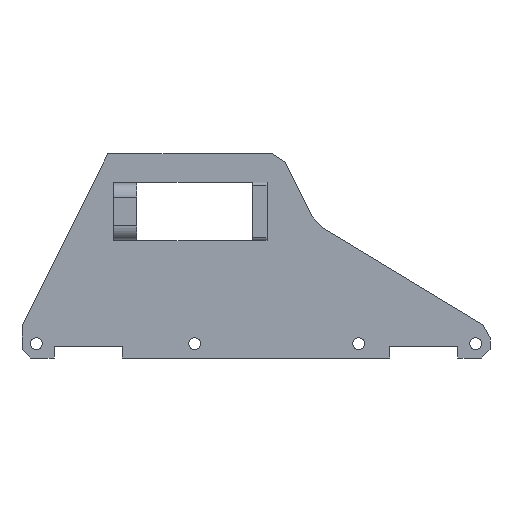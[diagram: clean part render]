
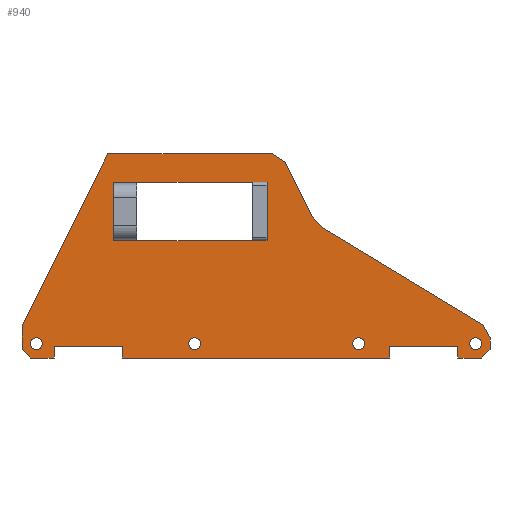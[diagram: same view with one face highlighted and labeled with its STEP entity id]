
A CAD part, front view. The second image highlights one B-rep face of the part: STEP entity #940.
In plain terms, the highlighted planar face has unit normal (0, -1, 0).
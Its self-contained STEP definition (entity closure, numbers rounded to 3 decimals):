
#21=FACE_BOUND('',#138,.T.);
#22=FACE_BOUND('',#139,.T.);
#23=FACE_BOUND('',#140,.T.);
#24=FACE_BOUND('',#141,.T.);
#25=FACE_BOUND('',#142,.T.);
#43=PLANE('',#1017);
#82=FACE_OUTER_BOUND('',#137,.T.);
#137=EDGE_LOOP('',(#727,#728,#729,#730,#731,#732,#733,#734,#735,#736,#737,
#738,#739,#740,#741,#742,#743,#744,#745,#746));
#138=EDGE_LOOP('',(#747,#748,#749,#750,#751,#752,#753,#754,#755,#756,#757));
#139=EDGE_LOOP('',(#758));
#140=EDGE_LOOP('',(#759));
#141=EDGE_LOOP('',(#760));
#142=EDGE_LOOP('',(#761));
#187=LINE('',#1357,#287);
#194=LINE('',#1377,#294);
#196=LINE('',#1382,#296);
#198=LINE('',#1386,#298);
#207=LINE('',#1418,#307);
#211=LINE('',#1430,#311);
#215=LINE('',#1438,#315);
#217=LINE('',#1441,#317);
#218=LINE('',#1443,#318);
#219=LINE('',#1447,#319);
#220=LINE('',#1449,#320);
#221=LINE('',#1451,#321);
#222=LINE('',#1453,#322);
#223=LINE('',#1455,#323);
#224=LINE('',#1457,#324);
#225=LINE('',#1459,#325);
#226=LINE('',#1461,#326);
#227=LINE('',#1463,#327);
#228=LINE('',#1465,#328);
#229=LINE('',#1467,#329);
#230=LINE('',#1469,#330);
#231=LINE('',#1471,#331);
#232=LINE('',#1473,#332);
#233=LINE('',#1475,#333);
#234=LINE('',#1477,#334);
#235=LINE('',#1479,#335);
#236=LINE('',#1481,#336);
#237=LINE('',#1483,#337);
#238=LINE('',#1484,#338);
#239=LINE('',#1485,#339);
#240=LINE('',#1486,#340);
#287=VECTOR('',#1087,10.);
#294=VECTOR('',#1104,10.);
#296=VECTOR('',#1110,10.);
#298=VECTOR('',#1116,10.);
#307=VECTOR('',#1147,10.);
#311=VECTOR('',#1159,10.);
#315=VECTOR('',#1163,10.);
#317=VECTOR('',#1167,10.);
#318=VECTOR('',#1170,10.);
#319=VECTOR('',#1173,10.);
#320=VECTOR('',#1174,10.);
#321=VECTOR('',#1175,10.);
#322=VECTOR('',#1176,10.);
#323=VECTOR('',#1177,10.);
#324=VECTOR('',#1178,10.);
#325=VECTOR('',#1179,10.);
#326=VECTOR('',#1180,10.);
#327=VECTOR('',#1181,10.);
#328=VECTOR('',#1182,10.);
#329=VECTOR('',#1183,10.);
#330=VECTOR('',#1184,10.);
#331=VECTOR('',#1185,10.);
#332=VECTOR('',#1186,10.);
#333=VECTOR('',#1187,10.);
#334=VECTOR('',#1188,10.);
#335=VECTOR('',#1189,10.);
#336=VECTOR('',#1190,10.);
#337=VECTOR('',#1191,10.);
#338=VECTOR('',#1192,10.);
#339=VECTOR('',#1193,10.);
#340=VECTOR('',#1194,10.);
#395=CIRCLE('',#1018,2.);
#396=CIRCLE('',#1019,2.);
#397=CIRCLE('',#1020,2.);
#398=CIRCLE('',#1021,2.);
#421=VERTEX_POINT('',#1354);
#422=VERTEX_POINT('',#1356);
#426=VERTEX_POINT('',#1368);
#429=VERTEX_POINT('',#1374);
#430=VERTEX_POINT('',#1376);
#442=VERTEX_POINT('',#1415);
#443=VERTEX_POINT('',#1417);
#446=VERTEX_POINT('',#1427);
#447=VERTEX_POINT('',#1429);
#450=VERTEX_POINT('',#1435);
#451=VERTEX_POINT('',#1437);
#452=VERTEX_POINT('',#1445);
#453=VERTEX_POINT('',#1446);
#454=VERTEX_POINT('',#1448);
#455=VERTEX_POINT('',#1450);
#456=VERTEX_POINT('',#1452);
#457=VERTEX_POINT('',#1454);
#458=VERTEX_POINT('',#1456);
#459=VERTEX_POINT('',#1458);
#460=VERTEX_POINT('',#1460);
#461=VERTEX_POINT('',#1462);
#462=VERTEX_POINT('',#1464);
#463=VERTEX_POINT('',#1466);
#464=VERTEX_POINT('',#1468);
#465=VERTEX_POINT('',#1470);
#466=VERTEX_POINT('',#1472);
#467=VERTEX_POINT('',#1474);
#468=VERTEX_POINT('',#1476);
#469=VERTEX_POINT('',#1478);
#470=VERTEX_POINT('',#1480);
#471=VERTEX_POINT('',#1482);
#472=VERTEX_POINT('',#1487);
#473=VERTEX_POINT('',#1489);
#474=VERTEX_POINT('',#1491);
#475=VERTEX_POINT('',#1493);
#512=EDGE_CURVE('',#422,#421,#187,.T.);
#522=EDGE_CURVE('',#430,#429,#194,.T.);
#525=EDGE_CURVE('',#426,#422,#196,.T.);
#527=EDGE_CURVE('',#421,#430,#198,.T.);
#542=EDGE_CURVE('',#443,#442,#207,.T.);
#548=EDGE_CURVE('',#447,#446,#211,.T.);
#552=EDGE_CURVE('',#451,#450,#215,.T.);
#554=EDGE_CURVE('',#446,#443,#217,.T.);
#555=EDGE_CURVE('',#442,#451,#218,.T.);
#556=EDGE_CURVE('',#452,#453,#219,.T.);
#557=EDGE_CURVE('',#453,#454,#220,.T.);
#558=EDGE_CURVE('',#454,#455,#221,.T.);
#559=EDGE_CURVE('',#455,#456,#222,.T.);
#560=EDGE_CURVE('',#456,#457,#223,.T.);
#561=EDGE_CURVE('',#457,#458,#224,.T.);
#562=EDGE_CURVE('',#458,#459,#225,.T.);
#563=EDGE_CURVE('',#459,#460,#226,.T.);
#564=EDGE_CURVE('',#461,#460,#227,.T.);
#565=EDGE_CURVE('',#461,#462,#228,.T.);
#566=EDGE_CURVE('',#462,#463,#229,.T.);
#567=EDGE_CURVE('',#464,#463,#230,.T.);
#568=EDGE_CURVE('',#465,#464,#231,.T.);
#569=EDGE_CURVE('',#466,#465,#232,.T.);
#570=EDGE_CURVE('',#467,#466,#233,.T.);
#571=EDGE_CURVE('',#468,#467,#234,.T.);
#572=EDGE_CURVE('',#469,#468,#235,.T.);
#573=EDGE_CURVE('',#470,#469,#236,.T.);
#574=EDGE_CURVE('',#471,#470,#237,.T.);
#575=EDGE_CURVE('',#471,#452,#238,.T.);
#576=EDGE_CURVE('',#429,#447,#239,.T.);
#577=EDGE_CURVE('',#450,#426,#240,.T.);
#578=EDGE_CURVE('',#472,#472,#395,.T.);
#579=EDGE_CURVE('',#473,#473,#396,.T.);
#580=EDGE_CURVE('',#474,#474,#397,.T.);
#581=EDGE_CURVE('',#475,#475,#398,.T.);
#727=ORIENTED_EDGE('',*,*,#556,.T.);
#728=ORIENTED_EDGE('',*,*,#557,.T.);
#729=ORIENTED_EDGE('',*,*,#558,.T.);
#730=ORIENTED_EDGE('',*,*,#559,.T.);
#731=ORIENTED_EDGE('',*,*,#560,.T.);
#732=ORIENTED_EDGE('',*,*,#561,.T.);
#733=ORIENTED_EDGE('',*,*,#562,.T.);
#734=ORIENTED_EDGE('',*,*,#563,.T.);
#735=ORIENTED_EDGE('',*,*,#564,.F.);
#736=ORIENTED_EDGE('',*,*,#565,.T.);
#737=ORIENTED_EDGE('',*,*,#566,.T.);
#738=ORIENTED_EDGE('',*,*,#567,.F.);
#739=ORIENTED_EDGE('',*,*,#568,.F.);
#740=ORIENTED_EDGE('',*,*,#569,.F.);
#741=ORIENTED_EDGE('',*,*,#570,.F.);
#742=ORIENTED_EDGE('',*,*,#571,.F.);
#743=ORIENTED_EDGE('',*,*,#572,.F.);
#744=ORIENTED_EDGE('',*,*,#573,.F.);
#745=ORIENTED_EDGE('',*,*,#574,.F.);
#746=ORIENTED_EDGE('',*,*,#575,.T.);
#747=ORIENTED_EDGE('',*,*,#527,.T.);
#748=ORIENTED_EDGE('',*,*,#522,.T.);
#749=ORIENTED_EDGE('',*,*,#576,.T.);
#750=ORIENTED_EDGE('',*,*,#548,.T.);
#751=ORIENTED_EDGE('',*,*,#554,.T.);
#752=ORIENTED_EDGE('',*,*,#542,.T.);
#753=ORIENTED_EDGE('',*,*,#555,.T.);
#754=ORIENTED_EDGE('',*,*,#552,.T.);
#755=ORIENTED_EDGE('',*,*,#577,.T.);
#756=ORIENTED_EDGE('',*,*,#525,.T.);
#757=ORIENTED_EDGE('',*,*,#512,.T.);
#758=ORIENTED_EDGE('',*,*,#578,.T.);
#759=ORIENTED_EDGE('',*,*,#579,.T.);
#760=ORIENTED_EDGE('',*,*,#580,.T.);
#761=ORIENTED_EDGE('',*,*,#581,.T.);
#940=ADVANCED_FACE('',(#82,#21,#22,#23,#24,#25),#43,.F.);
#1017=AXIS2_PLACEMENT_3D('',#1444,#1171,#1172);
#1018=AXIS2_PLACEMENT_3D('',#1488,#1195,#1196);
#1019=AXIS2_PLACEMENT_3D('',#1490,#1197,#1198);
#1020=AXIS2_PLACEMENT_3D('',#1492,#1199,#1200);
#1021=AXIS2_PLACEMENT_3D('',#1494,#1201,#1202);
#1087=DIRECTION('',(0.,0.,-1.));
#1104=DIRECTION('',(0.,0.,-1.));
#1110=DIRECTION('',(1.,0.,0.));
#1116=DIRECTION('',(-1.,0.,0.));
#1147=DIRECTION('',(0.,0.,1.));
#1159=DIRECTION('',(0.,0.,1.));
#1163=DIRECTION('',(0.,0.,1.));
#1167=DIRECTION('',(-1.,0.,0.));
#1170=DIRECTION('',(1.,0.,0.));
#1171=DIRECTION('center_axis',(0.,1.,0.));
#1172=DIRECTION('ref_axis',(1.,0.,0.));
#1173=DIRECTION('',(0.,0.,1.));
#1174=DIRECTION('',(1.,0.,0.));
#1175=DIRECTION('',(0.,0.,-1.));
#1176=DIRECTION('',(1.,0.,0.));
#1177=DIRECTION('',(0.,0.,1.));
#1178=DIRECTION('',(1.,0.,0.));
#1179=DIRECTION('',(0.,0.,-1.));
#1180=DIRECTION('',(1.,0.,0.));
#1181=DIRECTION('',(-0.707,0.,-0.707));
#1182=DIRECTION('',(0.,0.,1.));
#1183=DIRECTION('',(-0.486,0.,0.874));
#1184=DIRECTION('',(0.856,0.,-0.518));
#1185=DIRECTION('',(0.674,0.,-0.738));
#1186=DIRECTION('',(0.447,0.,-0.894));
#1187=DIRECTION('',(0.851,0.,-0.525));
#1188=DIRECTION('',(1.,0.,0.));
#1189=DIRECTION('',(0.447,0.,0.894));
#1190=DIRECTION('',(0.,0.,1.));
#1191=DIRECTION('',(-0.707,0.,0.707));
#1192=DIRECTION('',(1.,0.,0.));
#1193=DIRECTION('',(-1.,0.,0.));
#1194=DIRECTION('',(1.,0.,0.));
#1195=DIRECTION('center_axis',(0.,1.,0.));
#1196=DIRECTION('ref_axis',(1.,0.,0.));
#1197=DIRECTION('center_axis',(0.,1.,0.));
#1198=DIRECTION('ref_axis',(1.,0.,0.));
#1199=DIRECTION('center_axis',(0.,1.,0.));
#1200=DIRECTION('ref_axis',(1.,0.,0.));
#1201=DIRECTION('center_axis',(0.,1.,0.));
#1202=DIRECTION('ref_axis',(1.,0.,0.));
#1354=CARTESIAN_POINT('',(85.15,0.,40.916));
#1356=CARTESIAN_POINT('',(85.15,0.,61.066));
#1357=CARTESIAN_POINT('',(85.15,0.,38.187));
#1368=CARTESIAN_POINT('',(80.15,0.,61.066));
#1374=CARTESIAN_POINT('',(80.15,0.,40.766));
#1376=CARTESIAN_POINT('',(80.15,0.,40.916));
#1377=CARTESIAN_POINT('',(80.15,0.,48.262));
#1382=CARTESIAN_POINT('',(83.236,0.,61.066));
#1386=CARTESIAN_POINT('',(80.736,0.,40.916));
#1415=CARTESIAN_POINT('',(31.85,0.,60.916));
#1417=CARTESIAN_POINT('',(31.85,0.,40.916));
#1418=CARTESIAN_POINT('',(31.85,0.,48.187));
#1427=CARTESIAN_POINT('',(39.85,0.,40.916));
#1429=CARTESIAN_POINT('',(39.85,0.,40.766));
#1430=CARTESIAN_POINT('',(39.85,0.,38.112));
#1435=CARTESIAN_POINT('',(39.85,0.,61.066));
#1437=CARTESIAN_POINT('',(39.85,0.,60.916));
#1438=CARTESIAN_POINT('',(39.85,0.,38.112));
#1441=CARTESIAN_POINT('',(56.586,0.,40.916));
#1443=CARTESIAN_POINT('',(60.586,0.,60.916));
#1444=CARTESIAN_POINT('Origin',(81.323,0.,35.458));
#1445=CARTESIAN_POINT('',(11.157,0.,0.));
#1446=CARTESIAN_POINT('',(11.157,0.,4.));
#1447=CARTESIAN_POINT('',(11.157,0.,0.));
#1448=CARTESIAN_POINT('',(34.843,0.,4.));
#1449=CARTESIAN_POINT('',(52.161,0.,4.));
#1450=CARTESIAN_POINT('',(34.843,0.,0.));
#1451=CARTESIAN_POINT('',(34.843,0.,0.));
#1452=CARTESIAN_POINT('',(127.803,0.,0.));
#1453=CARTESIAN_POINT('',(2.645,0.,0.));
#1454=CARTESIAN_POINT('',(127.803,0.,4.));
#1455=CARTESIAN_POINT('',(127.803,0.,0.));
#1456=CARTESIAN_POINT('',(151.488,0.,4.));
#1457=CARTESIAN_POINT('',(110.484,0.,4.));
#1458=CARTESIAN_POINT('',(151.488,0.,0.));
#1459=CARTESIAN_POINT('',(151.488,0.,0.));
#1460=CARTESIAN_POINT('',(159.645,0.,0.));
#1461=CARTESIAN_POINT('',(2.645,0.,0.));
#1462=CARTESIAN_POINT('',(162.645,0.,3.));
#1463=CARTESIAN_POINT('',(149.679,0.,-9.966));
#1464=CARTESIAN_POINT('',(162.645,0.,7.));
#1465=CARTESIAN_POINT('',(162.645,0.,0.));
#1466=CARTESIAN_POINT('',(160.095,0.,11.58));
#1467=CARTESIAN_POINT('',(162.645,0.,7.));
#1468=CARTESIAN_POINT('',(104.66,0.,45.116));
#1469=CARTESIAN_POINT('',(104.66,0.,45.116));
#1470=CARTESIAN_POINT('',(100.77,0.,49.376));
#1471=CARTESIAN_POINT('',(100.77,0.,49.376));
#1472=CARTESIAN_POINT('',(91.34,0.,68.236));
#1473=CARTESIAN_POINT('',(91.34,0.,68.236));
#1474=CARTESIAN_POINT('',(87.,0.,70.916));
#1475=CARTESIAN_POINT('',(87.,0.,70.916));
#1476=CARTESIAN_POINT('',(29.83,0.,70.916));
#1477=CARTESIAN_POINT('',(29.83,0.,70.916));
#1478=CARTESIAN_POINT('',(0.,0.,11.256));
#1479=CARTESIAN_POINT('',(0.,0.,11.256));
#1480=CARTESIAN_POINT('',(0.,0.,3.));
#1481=CARTESIAN_POINT('',(0.,0.,0.));
#1482=CARTESIAN_POINT('',(3.,0.,0.));
#1483=CARTESIAN_POINT('',(12.966,0.,-9.966));
#1484=CARTESIAN_POINT('',(2.645,0.,0.));
#1485=CARTESIAN_POINT('',(80.736,0.,40.766));
#1486=CARTESIAN_POINT('',(60.586,0.,61.066));
#1487=CARTESIAN_POINT('',(58.,0.,5.));
#1488=CARTESIAN_POINT('Origin',(60.,0.,5.));
#1489=CARTESIAN_POINT('',(115.,0.,5.));
#1490=CARTESIAN_POINT('Origin',(117.,0.,5.));
#1491=CARTESIAN_POINT('',(3.,0.,5.));
#1492=CARTESIAN_POINT('Origin',(5.,0.,5.));
#1493=CARTESIAN_POINT('',(155.645,0.,5.));
#1494=CARTESIAN_POINT('Origin',(157.645,0.,5.));
